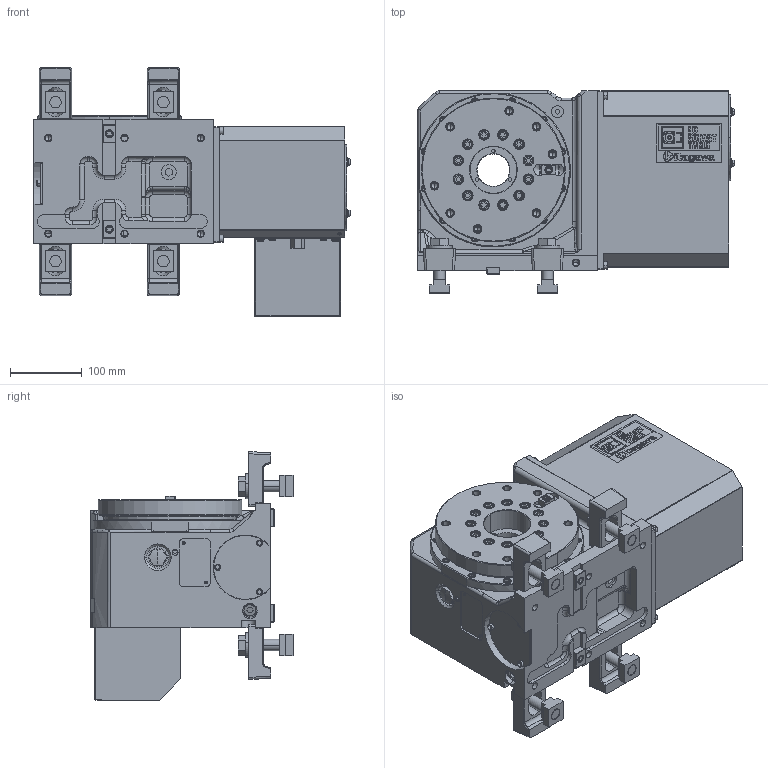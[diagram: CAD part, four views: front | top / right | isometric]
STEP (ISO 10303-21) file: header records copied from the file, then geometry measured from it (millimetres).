
FILE_DESCRIPTION (( 'STEP AP214' ), '1' );
FILE_NAME ('GT200RAF.STEP', '2019-12-10T04:38:24', ( '' ), ( '' ), 'SwSTEP 2.0', 'SolidWorks 2017', '' );
FILE_SCHEMA (( 'AUTOMOTIVE_DESIGN' ));
Length unit declared in the file: millimetre
Products named in the file (13): CLAMPING PARTS（61E464786）; GT200RAF03儂儞僞僀; キタガワシール; SMC KQ2E06-02; コネクタカバー(61E363968); コネクタプレート(61E4684140)GT200RAF03; 僇僶乕丂俹(61E4458212)MR160LAF01; モータケース(61E2612550)GT200RAF01; ガイドブロック(61M4197783); GT200RA01僋儈僞僥(61E500400); テーブル (61E8006661）GT200RA00; 儂儞僞僀ASSY 乮61E1127911乯 GT200RA01  ; GT200RAF
Assembly tree (16 placements, depth 4):
  GT200RAF
    GT200RAF03儂儞僞僀
      GT200RA01僋儈僞僥(61E500400)
        儂儞僞僀ASSY 乮61E1127911乯 GT200RA01  
        テーブル (61E8006661）GT200RA00
      ガイドブロック(61M4197783)  x2
      モータケース(61E2612550)GT200RAF01
      僇僶乕丂俹(61E4458212)MR160LAF01
      コネクタプレート(61E4684140)GT200RAF03
      コネクタカバー(61E363968)
      SMC KQ2E06-02
      キタガワシール
    CLAMPING PARTS（61E464786）  x4
Bounding box: 439.7 x 281 x 346 mm (x, y, z)
Volume: 16537526.7 mm3; surface area: 954237.5 mm2
Topology: 14 solids, 15 shells, 3336 faces, 8616 edges, 5580 vertices
Faces by surface type: plane 2324, cylinder 678, cone 238, torus 59, bspline 30, sphere 7
Entity records: 109310 total; most frequent: CARTESIAN_POINT 17831, ORIENTED_EDGE 16170, DIRECTION 15804, EDGE_CURVE 8085, LINE 6438, VECTOR 6438, VERTEX_POINT 5280, AXIS2_PLACEMENT_3D 4683
